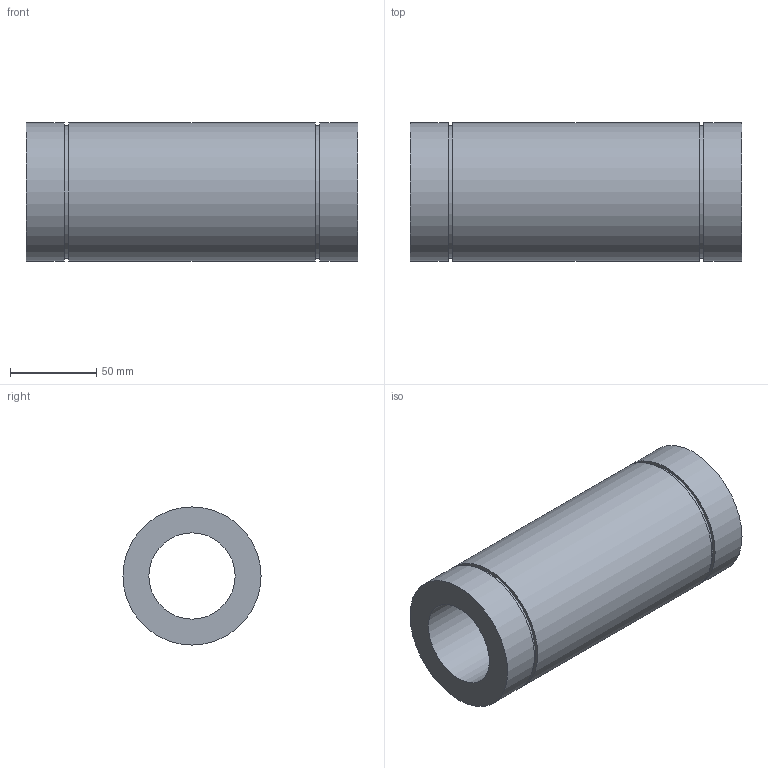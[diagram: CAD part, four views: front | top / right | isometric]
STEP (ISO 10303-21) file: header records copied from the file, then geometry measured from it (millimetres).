
FILE_DESCRIPTION(/* description */ ('Unknown'),/* implementation_level */ '2;1');
FILE_NAME(/* name */ 'LM50LUU',/* time_stamp */ '2025-02-03T15:05:43+08:00',/* author */ ('Unknown'),/* organization */ ('Unknown'),/* preprocessor_version */ 'ST-DEVELOPER v18.102',/* originating_system */ 'Solid Edge',/* authorisation */ 'Unknown');
FILE_SCHEMA (('AUTOMOTIVE_DESIGN {1 0 10303 214 3 1 1}'));
Length unit declared in the file: millimetre
Products named in the file (1): LM50LUU
Bounding box: 192 x 80 x 80 mm (x, y, z)
Volume: 585869.1 mm3; surface area: 86203.9 mm2
Topology: 1 solids, 1 shells, 12 faces, 20 edges, 14 vertices
Faces by surface type: cylinder 6, plane 6
Full cylindrical faces by diameter (mm): 50 x1, 76.5 x2, 80 x3
Entity records: 278 total; most frequent: DIRECTION 50, CARTESIAN_POINT 37, AXIS2_PLACEMENT_3D 25, ORIENTED_EDGE 24, EDGE_LOOP 24, FACE_BOUND 24, EDGE_CURVE 12, VERTEX_POINT 12
